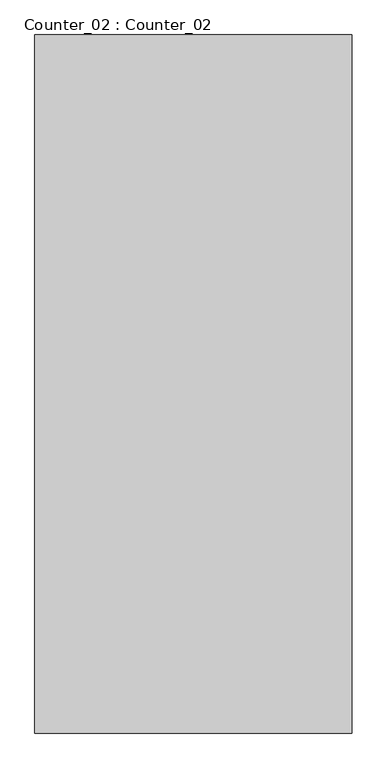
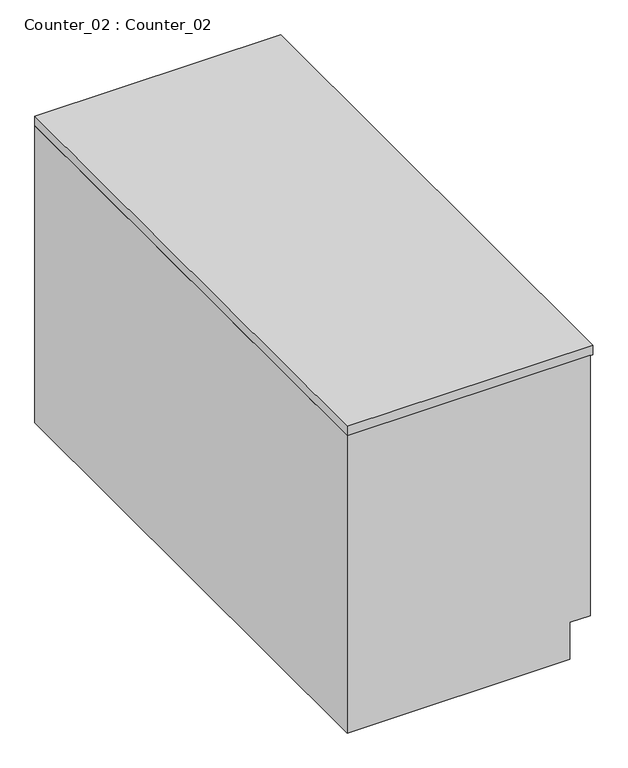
"""IFC4 building model written with IfcOpenShell, lengths in millimetres: furniture geometry, Counter_02 : Counter_02."""

from ifc_helpers import new_model, si_unit, frame, origin, place, context, project, spatial, polyline, outline, extrude, faceted_brep, source, transform, mapped, element, save


def counter_02_counter_02_050aac90(model_context):
    return source(origin(), model_context, "Body", "SolidModel", [
        faceted_brep([(-4938.0019919, 3203.0198069, 4275.649752), (-4938.0019919, 1695.5198069, 4275.649752), (-4260.1103124, 1695.5198069, 4275.649752), (-4260.1103124, 3203.0198069, 4275.649752), (-4938.0019919, 1695.5198069, 3400.0), (-4938.0019919, 3203.0198069, 3400.0), (-4318.0019919, 3203.0198069, 3400.0), (-4318.0019919, 1695.5198069, 3400.0), (-4318.0019919, 1695.5198069, 3509.1652591), (-4260.1103124, 1695.5198069, 3509.1652591), (-4260.1103124, 1770.3100109, 3509.1652591), (-4260.1103124, 1770.3100109, 4232.140638), (-4260.1103124, 2374.9323789, 4232.140638), (-4260.1103124, 2374.9323789, 3509.1652591), (-4260.1103124, 2395.5198069, 3509.1652591), (-4260.1103124, 2395.5198069, 4248.3991044), (-4260.1103124, 2790.4731363, 4248.3991044), (-4260.1103124, 2790.4731363, 3509.1652591), (-4260.1103124, 2806.63292, 3509.1652591), (-4260.1103124, 2806.63292, 4248.3991044), (-4260.1103124, 3171.63292, 4248.3991044), (-4260.1103124, 3171.63292, 3509.1652591), (-4260.1103124, 3203.0198069, 3509.1652591), (-4260.1103124, 1780.3100109, 3509.1652591), (-4260.1103124, 2364.9323789, 3509.1652591), (-4260.1103124, 2364.9323789, 4222.140638), (-4260.1103124, 1780.3100109, 4222.140638), (-4318.0019919, 3203.0198069, 3509.1652591), (-4270.1103124, 3171.63292, 4248.3991044), (-4270.1103124, 2806.63292, 4248.3991044), (-4270.1103124, 2806.63292, 3509.1652591), (-4270.1103124, 3171.63292, 3509.1652591), (-4270.1103124, 2790.4731363, 3509.1652591), (-4270.1103124, 2395.5198069, 3509.1652591), (-4266.5601246, 2374.9323789, 3509.1652591), (-4266.5601246, 2364.9323789, 3509.1652591), (-4266.5601246, 1780.3100109, 3509.1652591), (-4266.5601246, 1770.3100109, 3509.1652591), (-4270.1103124, 2790.4731363, 4248.3991044), (-4270.1103124, 2395.5198069, 4248.3991044), (-4266.5601246, 2364.9323789, 4222.140638), (-4266.5601246, 2374.9323789, 4232.140638), (-4266.5601246, 1770.3100109, 4232.140638), (-4266.5601246, 1780.3100109, 4222.140638)], [[[0, 1, 2, 3]], [[4, 5, 6, 7]], [[1, 0, 5, 4]], [[2, 1, 4, 7, 8, 9]], [[3, 2, 9, 10, 11, 12, 13, 14, 15, 16, 17, 18, 19, 20, 21, 22]], [[23, 24, 25, 26]], [[0, 3, 22, 27, 6, 5]], [[28, 20, 19, 29]], [[28, 29, 30, 31]], [[29, 19, 18, 30]], [[20, 28, 31, 21]], [[8, 27, 22, 21, 31, 30, 18, 17, 32, 33, 14, 13, 34, 35, 24, 23, 36, 37, 10, 9]], [[27, 8, 7, 6]], [[38, 16, 15, 39]], [[38, 39, 33, 32]], [[39, 15, 14, 33]], [[16, 38, 32, 17]], [[40, 35, 34, 41, 42, 37, 36, 43]], [[35, 40, 25, 24]], [[43, 36, 23, 26]], [[40, 43, 26, 25]], [[41, 34, 13, 12]], [[42, 41, 12, 11]], [[37, 42, 11, 10]]]),
        extrude(outline(polyline([(-4938.0019919, 3203.0198069), (-4252.997003, 3203.0198069), (-4252.997003, 1695.5198069), (-4938.0019919, 1695.5198069), (-4938.0019919, 3203.0198069)])), frame((0.0, 0.0, 4275.649752), z_axis=(0.0, 0.0, 1.0), x_axis=(1.0, 0.0, 0.0)), (0.0, 0.0, 1.0), 28.0568212),
    ])


if __name__ == "__main__":
    model = new_model("IFC4")
    model_context = context("Model", 3, world=origin())
    ifc_project = project(units=[si_unit("LENGTHUNIT", "METRE", prefix="MILLI")], contexts=[model_context])
    site = spatial("IfcSite", under=ifc_project)
    building = spatial("IfcBuilding", under=site)
    placement = place(None, origin())
    counter_02_counter_02_shape = counter_02_counter_02_050aac90(model_context)
    element("IfcFurniture", 1, ObjectType="Counter_02 : Counter_02", at=placement, inside=building, context=model_context, shape_type="MappedRepresentation", body=[
        mapped(counter_02_counter_02_shape, transform((0.0, 0.0, 0.0), x_axis=(1.0, 0.0, 0.0), y_axis=(0.0, 1.0, 0.0), z_axis=(0.0, 0.0, 1.0))),
    ])
    save(model, "model.ifc")
